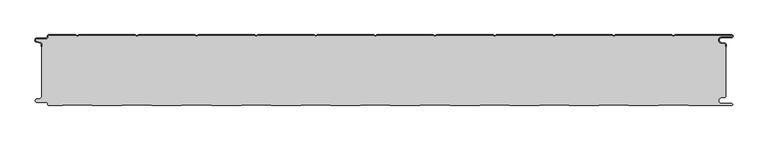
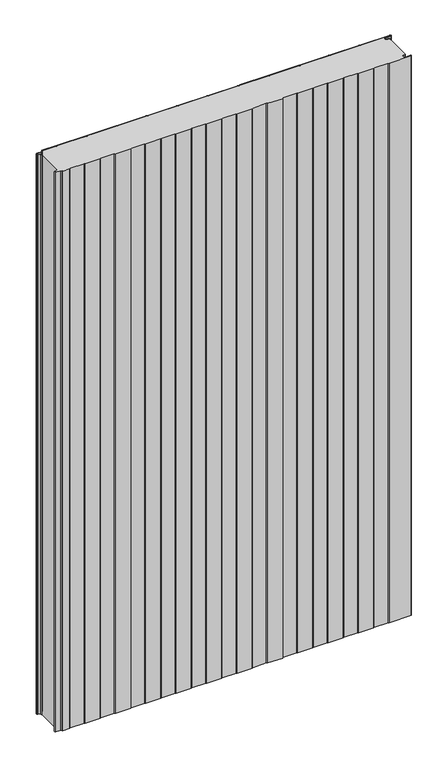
"""IFC4 building model written with IfcOpenShell, lengths in millimetres: plate geometry, PM1_Curtain-Panel_Perfil-Estándar : ACH_PM1_Panel-Acústico-Sectorización_120M."""

from ifc_helpers import new_model, si_unit, point, frame, frame_2d, origin, origin_with_axes, place, context, project, spatial, polyline, circle_curve, trimmed, segment, composite_curve, outline, extrude, source, transform, mapped, element, save
from ifc_brep_helpers import plane_surface, cylinder_surface, revolved_surface, advanced_brep


def plate_6c952c13(model_context):
    return source(origin(), model_context, "Body", "SolidModel", [
        advanced_brep(
        [(-575.0, -15.878557, 1945.7507136), (-575.0, -20.0, 1945.7507136), (-574.2, -20.0, 1945.7507136), (-574.2, -15.878557, 1945.7507136), (-576.370137, -13.1503208, 1945.7507136), (-582.529863, -11.728236, 1945.7507136), (-581.9, -6.2, 1945.7507136), (-566.4, -6.2, 1945.7507136), (-563.6, -3.4, 1945.7507136), (-563.6, -2.0, 1945.7507136), (-562.4, -0.8, 1945.7507136), (-517.3143588, -0.8, 1945.7507136), (-514.4, -2.482606, 1945.7507136), (-511.4856412, -0.8, 1945.7507136), (-417.3143588, -0.8, 1945.7507136), (-414.4, -2.482606, 1945.7507136), (-411.4856412, -0.8, 1945.7507136), (-317.3143588, -0.8, 1945.7507136), (-314.4, -2.482606, 1945.7507136), (-311.4856412, -0.8, 1945.7507136), (-217.3143588, -0.8, 1945.7507136), (-214.4, -2.482606, 1945.7507136), (-211.4856412, -0.8, 1945.7507136), (-117.3143588, -0.8, 1945.7507136), (-114.4, -2.482606, 1945.7507136), (-111.4856412, -0.8, 1945.7507136), (-17.3143588, -0.8, 1945.7507136), (-14.4, -2.482606, 1945.7507136), (-11.4856412, -0.8, 1945.7507136), (82.6856412, -0.8, 1945.7507136), (85.6, -2.482606, 1945.7507136), (88.5143588, -0.8, 1945.7507136), (182.6856412, -0.8, 1945.7507136), (185.6, -2.482606, 1945.7507136), (188.5143588, -0.8, 1945.7507136), (282.6856412, -0.8, 1945.7507136), (285.6, -2.482606, 1945.7507136), (288.5143588, -0.8, 1945.7507136), (382.6856412, -0.8, 1945.7507136), (385.6, -2.482606, 1945.7507136), (388.5143588, -0.8, 1945.7507136), (482.6856412, -0.8, 1945.7507136), (485.6, -2.482606, 1945.7507136), (488.5143588, -0.8, 1945.7507136), (583.1, -0.8, 1945.7507136), (583.1, -4.2, 1945.7507136), (566.1, -4.2, 1945.7507136), (565.2664884, -13.7270771, 1945.7507136), (571.7125669, -14.8636953, 1945.7507136), (573.2, -16.6363492, 1945.7507136), (573.2, -20.0, 1945.7507136), (574.0, -20.0, 1945.7507136), (574.0, -16.6363492, 1945.7507136), (571.8514855, -14.0758491, 1945.7507136), (565.405407, -12.939231, 1945.7507136), (566.1, -5.0, 1945.7507136), (583.1, -5.0, 1945.7507136), (585.6, -2.5, 1945.7507136), (583.1, 0.0, 1945.7507136), (488.2999995, 0.0, 1945.7507136), (485.6, -1.5588455, 1945.7507136), (482.9000005, 0.0, 1945.7507136), (388.2999995, 0.0, 1945.7507136), (385.6, -1.5588455, 1945.7507136), (382.9000005, 0.0, 1945.7507136), (288.2999995, 0.0, 1945.7507136), (285.6, -1.5588455, 1945.7507136), (282.9000005, 0.0, 1945.7507136), (188.2999995, 0.0, 1945.7507136), (185.6, -1.5588455, 1945.7507136), (182.9000005, 0.0, 1945.7507136), (88.2999995, 0.0, 1945.7507136), (85.6, -1.5588455, 1945.7507136), (82.9000005, 0.0, 1945.7507136), (-11.7000005, 0.0, 1945.7507136), (-14.4, -1.5588455, 1945.7507136), (-17.0999995, 0.0, 1945.7507136), (-111.7000005, 0.0, 1945.7507136), (-114.4, -1.5588455, 1945.7507136), (-117.0999995, 0.0, 1945.7507136), (-211.7000005, 0.0, 1945.7507136), (-214.4, -1.5588455, 1945.7507136), (-217.0999995, 0.0, 1945.7507136), (-311.7000005, 0.0, 1945.7507136), (-314.4, -1.5588455, 1945.7507136), (-317.0999995, 0.0, 1945.7507136), (-411.7000005, 0.0, 1945.7507136), (-414.4, -1.5588455, 1945.7507136), (-417.0999995, 0.0, 1945.7507136), (-511.7000005, 0.0, 1945.7507136), (-514.4, -1.5588455, 1945.7507136), (-517.0999995, 0.0, 1945.7507136), (-562.4, 0.0, 1945.7507136), (-564.4, -2.0, 1945.7507136), (-564.4, -3.4, 1945.7507136), (-566.4, -5.4, 1945.7507136), (-581.9, -5.4, 1945.7507136), (-582.7098239, -12.5077322, 1945.7507136), (-576.5500979, -13.929817, 1945.7507136), (-575.0, -15.878557, 0.0), (-576.5500978, -13.9298169, 0.0), (-582.7098239, -12.507732, 0.0), (-581.9, -5.4, 0.0), (-566.4, -5.4, 0.0), (-564.4, -3.4, 0.0), (-564.4, -2.0, 0.0), (-562.4, 0.0, 0.0), (-517.0999995, 0.0, 0.0), (-514.4, -1.5588455, 0.0), (-511.7000005, 0.0, 0.0), (-417.0999995, 0.0, 0.0), (-414.4, -1.5588455, 0.0), (-411.7000005, 0.0, 0.0), (-317.0999995, 0.0, 0.0), (-314.4, -1.5588455, 0.0), (-311.7000005, 0.0, 0.0), (-217.0999995, 0.0, 0.0), (-214.4, -1.5588455, 0.0), (-211.7000005, 0.0, 0.0), (-117.0999995, 0.0, 0.0), (-114.4, -1.5588455, 0.0), (-111.7000005, 0.0, 0.0), (-17.0999995, 0.0, 0.0), (-14.4, -1.5588455, 0.0), (-11.7000005, 0.0, 0.0), (82.9000005, 0.0, 0.0), (85.6, -1.5588455, 0.0), (88.2999995, 0.0, 0.0), (182.9000005, 0.0, 0.0), (185.6, -1.5588455, 0.0), (188.2999995, 0.0, 0.0), (282.9000005, 0.0, 0.0), (285.6, -1.5588455, 0.0), (288.2999995, 0.0, 0.0), (382.9000005, 0.0, 0.0), (385.6, -1.5588455, 0.0), (388.2999995, 0.0, 0.0), (482.9000005, 0.0, 0.0), (485.6, -1.5588455, 0.0), (488.2999995, 0.0, 0.0), (583.1, 0.0, 0.0), (585.6, -2.5, 0.0), (583.1, -5.0, 0.0), (566.1, -5.0, 0.0), (565.405407, -12.939231, 0.0), (571.8514855, -14.0758491, 0.0), (574.0, -16.6363492, 0.0), (574.0, -20.0, 0.0), (573.2, -20.0, 0.0), (573.2, -16.6363492, 0.0), (571.7125669, -14.8636953, 0.0), (565.2664884, -13.7270772, 0.0), (566.1, -4.2, 0.0), (583.1, -4.2, 0.0), (583.1, -0.8, 0.0), (488.5143588, -0.8, 0.0), (485.6, -2.482606, 0.0), (482.6856412, -0.8, 0.0), (388.5143588, -0.8, 0.0), (385.6, -2.482606, 0.0), (382.6856412, -0.8, 0.0), (288.5143588, -0.8, 0.0), (285.6, -2.482606, 0.0), (282.6856412, -0.8, 0.0), (188.5143588, -0.8, 0.0), (185.6, -2.482606, 0.0), (182.6856412, -0.8, 0.0), (88.5143588, -0.8, 0.0), (85.6, -2.482606, 0.0), (82.6856412, -0.8, 0.0), (-11.4856412, -0.8, 0.0), (-14.4, -2.482606, 0.0), (-17.3143588, -0.8, 0.0), (-111.4856412, -0.8, 0.0), (-114.4, -2.482606, 0.0), (-117.3143588, -0.8, 0.0), (-211.4856412, -0.8, 0.0), (-214.4, -2.482606, 0.0), (-217.3143588, -0.8, 0.0), (-311.4856412, -0.8, 0.0), (-314.4, -2.482606, 0.0), (-317.3143588, -0.8, 0.0), (-411.4856412, -0.8, 0.0), (-414.4, -2.482606, 0.0), (-417.3143588, -0.8, 0.0), (-511.4856412, -0.8, 0.0), (-514.4, -2.482606, 0.0), (-517.3143588, -0.8, 0.0), (-562.4, -0.8, 0.0), (-563.6, -2.0, 0.0), (-563.6, -3.4, 0.0), (-566.4, -6.2, 0.0), (-581.9, -6.2, 0.0), (-582.529863, -11.7282362, 0.0), (-576.370137, -13.150321, 0.0), (-574.2, -15.878557, 0.0), (-574.2, -20.0, 0.0), (-575.0, -20.0, 0.0)],
        [
            (0, 1),
            (1, 2),
            (2, 3),
            (3, 4, circle_curve(frame((-577.0, -15.878557, 1945.7507136), z_axis=(0.0, 0.0, 1.0), x_axis=(1.0, 0.0, 0.0)), 2.8)),
            (4, 5),
            (5, 6, circle_curve(frame((-581.9, -9.0, 1945.7507136), z_axis=(0.0, 0.0, -1.0), x_axis=(1.0, 0.0, 0.0)), 2.8)),
            (6, 7),
            (7, 8, circle_curve(frame((-566.4, -3.4, 1945.7507136), z_axis=(0.0, 0.0, 1.0), x_axis=(1.0, 0.0, 0.0)), 2.8)),
            (8, 9),
            (9, 10, circle_curve(frame((-562.4, -2.0, 1945.7507136), z_axis=(0.0, 0.0, -1.0), x_axis=(1.0, 0.0, 0.0)), 1.2)),
            (10, 11),
            (11, 12),
            (12, 13),
            (13, 14),
            (14, 15),
            (15, 16),
            (16, 17),
            (17, 18),
            (18, 19),
            (19, 20),
            (20, 21),
            (21, 22),
            (22, 23),
            (23, 24),
            (24, 25),
            (25, 26),
            (26, 27),
            (27, 28),
            (28, 29),
            (29, 30),
            (30, 31),
            (31, 32),
            (32, 33),
            (33, 34),
            (34, 35),
            (35, 36),
            (36, 37),
            (37, 38),
            (38, 39),
            (39, 40),
            (40, 41),
            (41, 42),
            (42, 43),
            (43, 44),
            (44, 45, circle_curve(frame((583.1, -2.5, 1945.7507136), z_axis=(0.0, 0.0, -1.0), x_axis=(1.0, 0.0, 0.0)), 1.7)),
            (45, 46),
            (46, 47, circle_curve(frame((566.1, -9.0, 1945.7507136), z_axis=(0.0, 0.0, 1.0), x_axis=(1.0, 0.0, 0.0)), 4.8)),
            (47, 48),
            (48, 49, circle_curve(frame((571.4, -16.6363492, 1945.7507136), z_axis=(0.0, 0.0, -1.0), x_axis=(1.0, 0.0, 0.0)), 1.8)),
            (49, 50),
            (50, 51),
            (51, 52),
            (52, 53, circle_curve(frame((571.4, -16.6363492, 1945.7507136), z_axis=(0.0, 0.0, 1.0), x_axis=(1.0, 0.0, 0.0)), 2.6)),
            (53, 54),
            (54, 55, circle_curve(frame((566.1, -9.0, 1945.7507136), z_axis=(0.0, 0.0, -1.0), x_axis=(1.0, 0.0, 0.0)), 4.0)),
            (55, 56),
            (56, 57, circle_curve(frame((583.1, -2.5, 1945.7507136), z_axis=(0.0, 0.0, 1.0), x_axis=(1.0, 0.0, 0.0)), 2.5)),
            (57, 58, circle_curve(frame((583.1, -2.5, 1945.7507136), z_axis=(0.0, 0.0, 1.0), x_axis=(1.0, 0.0, 0.0)), 2.5)),
            (58, 59),
            (59, 60),
            (60, 61),
            (61, 62),
            (62, 63),
            (63, 64),
            (64, 65),
            (65, 66),
            (66, 67),
            (67, 68),
            (68, 69),
            (69, 70),
            (70, 71),
            (71, 72),
            (72, 73),
            (73, 74),
            (74, 75),
            (75, 76),
            (76, 77),
            (77, 78),
            (78, 79),
            (79, 80),
            (80, 81),
            (81, 82),
            (82, 83),
            (83, 84),
            (84, 85),
            (85, 86),
            (86, 87),
            (87, 88),
            (88, 89),
            (89, 90),
            (90, 91),
            (91, 92),
            (92, 93, circle_curve(frame((-562.4, -2.0, 1945.7507136), z_axis=(0.0, 0.0, 1.0), x_axis=(1.0, 0.0, 0.0)), 2.0)),
            (93, 94),
            (94, 95, circle_curve(frame((-566.4, -3.4, 1945.7507136), z_axis=(0.0, 0.0, -1.0), x_axis=(1.0, 0.0, 0.0)), 2.0)),
            (95, 96),
            (96, 97, circle_curve(frame((-581.9, -9.0, 1945.7507136), z_axis=(0.0, 0.0, 1.0), x_axis=(1.0, 0.0, 0.0)), 3.6)),
            (97, 98),
            (98, 0, circle_curve(frame((-577.0, -15.878557, 1945.7507136), z_axis=(0.0, 0.0, -1.0), x_axis=(1.0, 0.0, 0.0)), 2.0)),
            (99, 100, circle_curve(frame((-577.0, -15.878557, 0.0), z_axis=(0.0, 0.0, 1.0), x_axis=(1.0, 0.0, 0.0)), 2.0)),
            (100, 101),
            (101, 102, circle_curve(frame((-581.9, -9.0, 0.0), z_axis=(0.0, 0.0, -1.0), x_axis=(1.0, 0.0, 0.0)), 3.6)),
            (102, 103),
            (103, 104, circle_curve(frame((-566.4, -3.4, 0.0), z_axis=(0.0, 0.0, 1.0), x_axis=(1.0, 0.0, 0.0)), 2.0)),
            (104, 105),
            (105, 106, circle_curve(frame((-562.4, -2.0, 0.0), z_axis=(0.0, 0.0, -1.0), x_axis=(1.0, 0.0, 0.0)), 2.0)),
            (106, 107),
            (107, 108),
            (108, 109),
            (109, 110),
            (110, 111),
            (111, 112),
            (112, 113),
            (113, 114),
            (114, 115),
            (115, 116),
            (116, 117),
            (117, 118),
            (118, 119),
            (119, 120),
            (120, 121),
            (121, 122),
            (122, 123),
            (123, 124),
            (124, 125),
            (125, 126),
            (126, 127),
            (127, 128),
            (128, 129),
            (129, 130),
            (130, 131),
            (131, 132),
            (132, 133),
            (133, 134),
            (134, 135),
            (135, 136),
            (136, 137),
            (137, 138),
            (138, 139),
            (139, 140),
            (140, 141, circle_curve(frame((583.1, -2.5, 0.0), z_axis=(0.0, 0.0, -1.0), x_axis=(1.0, 0.0, 0.0)), 2.5)),
            (141, 142, circle_curve(frame((583.1, -2.5, 0.0), z_axis=(0.0, 0.0, -1.0), x_axis=(1.0, 0.0, 0.0)), 2.5)),
            (142, 143),
            (143, 144, circle_curve(frame((566.1, -9.0, 0.0), z_axis=(0.0, 0.0, 1.0), x_axis=(1.0, 0.0, 0.0)), 4.0)),
            (144, 145),
            (145, 146, circle_curve(frame((571.4, -16.6363492, 0.0), z_axis=(0.0, 0.0, -1.0), x_axis=(1.0, 0.0, 0.0)), 2.6)),
            (146, 147),
            (147, 148),
            (148, 149),
            (149, 150, circle_curve(frame((571.4, -16.6363492, 0.0), z_axis=(0.0, 0.0, 1.0), x_axis=(1.0, 0.0, 0.0)), 1.8)),
            (150, 151),
            (151, 152, circle_curve(frame((566.1, -9.0, 0.0), z_axis=(0.0, 0.0, -1.0), x_axis=(1.0, 0.0, 0.0)), 4.8)),
            (152, 153),
            (153, 154, circle_curve(frame((583.1, -2.5, 0.0), z_axis=(0.0, 0.0, 1.0), x_axis=(1.0, 0.0, 0.0)), 1.7)),
            (154, 155),
            (155, 156),
            (156, 157),
            (157, 158),
            (158, 159),
            (159, 160),
            (160, 161),
            (161, 162),
            (162, 163),
            (163, 164),
            (164, 165),
            (165, 166),
            (166, 167),
            (167, 168),
            (168, 169),
            (169, 170),
            (170, 171),
            (171, 172),
            (172, 173),
            (173, 174),
            (174, 175),
            (175, 176),
            (176, 177),
            (177, 178),
            (178, 179),
            (179, 180),
            (180, 181),
            (181, 182),
            (182, 183),
            (183, 184),
            (184, 185),
            (185, 186),
            (186, 187),
            (187, 188),
            (188, 189, circle_curve(frame((-562.4, -2.0, 0.0), z_axis=(0.0, 0.0, 1.0), x_axis=(1.0, 0.0, 0.0)), 1.2)),
            (189, 190),
            (190, 191, circle_curve(frame((-566.4, -3.4, 0.0), z_axis=(0.0, 0.0, -1.0), x_axis=(1.0, 0.0, 0.0)), 2.8)),
            (191, 192),
            (192, 193, circle_curve(frame((-581.9, -9.0, 0.0), z_axis=(0.0, 0.0, 1.0), x_axis=(1.0, 0.0, 0.0)), 2.8)),
            (193, 194),
            (194, 195, circle_curve(frame((-577.0, -15.878557, 0.0), z_axis=(0.0, 0.0, -1.0), x_axis=(1.0, 0.0, 0.0)), 2.8)),
            (195, 196),
            (196, 197),
            (197, 99),
            (0, 99),
            (197, 1),
            (196, 2),
            (195, 3),
            (194, 4),
            (193, 5),
            (192, 6),
            (191, 7),
            (190, 8),
            (189, 9),
            (188, 10),
            (187, 11),
            (186, 12),
            (185, 13),
            (184, 14),
            (183, 15),
            (182, 16),
            (181, 17),
            (180, 18),
            (179, 19),
            (178, 20),
            (177, 21),
            (176, 22),
            (175, 23),
            (174, 24),
            (173, 25),
            (172, 26),
            (171, 27),
            (170, 28),
            (169, 29),
            (168, 30),
            (167, 31),
            (166, 32),
            (165, 33),
            (164, 34),
            (163, 35),
            (162, 36),
            (161, 37),
            (160, 38),
            (159, 39),
            (158, 40),
            (157, 41),
            (156, 42),
            (155, 43),
            (154, 44),
            (153, 45),
            (152, 46),
            (151, 47),
            (150, 48),
            (149, 49),
            (148, 50),
            (147, 51),
            (146, 52),
            (145, 53),
            (144, 54),
            (143, 55),
            (142, 56),
            (140, 58),
            (139, 59),
            (138, 60),
            (137, 61),
            (136, 62),
            (135, 63),
            (134, 64),
            (133, 65),
            (132, 66),
            (131, 67),
            (130, 68),
            (129, 69),
            (128, 70),
            (127, 71),
            (126, 72),
            (125, 73),
            (124, 74),
            (123, 75),
            (122, 76),
            (121, 77),
            (120, 78),
            (119, 79),
            (118, 80),
            (117, 81),
            (116, 82),
            (115, 83),
            (114, 84),
            (113, 85),
            (112, 86),
            (111, 87),
            (110, 88),
            (109, 89),
            (108, 90),
            (107, 91),
            (106, 92),
            (105, 93),
            (104, 94),
            (103, 95),
            (102, 96),
            (101, 97),
            (100, 98),
        ],
        [
            plane_surface(frame((-575.0, 0.0, 1945.7507136), z_axis=(0.0, 0.0, 1.0), x_axis=(0.0, 1.0, 0.0))),
            plane_surface(frame((-575.0, 0.0, 0.0), z_axis=(0.0, 0.0, -1.0), x_axis=(0.0, 1.0, 0.0))),
            plane_surface(frame((-575.0, -15.878557, 1945.7507136), z_axis=(-1.0, 0.0, 0.0), x_axis=(0.0, 0.0, -1.0))),
            plane_surface(frame((-575.0, -20.0, 1945.7507136), z_axis=(0.0, -1.0, 0.0), x_axis=(0.0, 0.0, -1.0))),
            plane_surface(frame((-574.2, -20.0, 1945.7507136), z_axis=(1.0, 0.0, 0.0), x_axis=(0.0, 0.0, -1.0))),
            cylinder_surface(frame((-577.0, -15.878557, 1945.7507136), z_axis=(0.0, 0.0, 1.0), x_axis=(1.0, 0.0, 0.0)), 2.8),
            plane_surface(frame((-576.370137, -13.150321, 1945.7507136), z_axis=(0.22495108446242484, 0.9743700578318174, 0.0), x_axis=(0.0, 0.0, -1.0))),
            revolved_surface(polyline([(-579.1, -9.0, 0.0), (-579.1, -9.0, 1945.7507136)]), (-581.9, -9.0, 1945.7507136), (0.0, 0.0, -1.0)),
            plane_surface(frame((-581.9, -6.2, 1945.7507136), z_axis=(0.0, -1.0, 0.0), x_axis=(0.0, 0.0, -1.0))),
            cylinder_surface(frame((-566.4, -3.4, 1945.7507136), z_axis=(0.0, 0.0, 1.0), x_axis=(1.0, 0.0, 0.0)), 2.8),
            plane_surface(frame((-563.6, -3.4, 1945.7507136), z_axis=(1.0, 0.0, 0.0), x_axis=(0.0, 0.0, -1.0))),
            revolved_surface(polyline([(-561.1999999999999, -2.0, 0.0), (-561.1999999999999, -2.0, 1945.7507136)]), (-562.4, -2.0, 1945.7507136), (0.0, 0.0, -1.0)),
            plane_surface(frame((-562.4, -0.8, 1945.7507136), z_axis=(0.0, -1.0, 0.0), x_axis=(0.0, 0.0, -1.0))),
            plane_surface(frame((-517.3143588, -0.8, 1945.7507136), z_axis=(-0.5000000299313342, -0.8660253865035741, 0.0), x_axis=(0.0, 0.0, -1.0))),
            plane_surface(frame((-514.4, -2.482606, 1945.7507136), z_axis=(0.5000000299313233, -0.8660253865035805, 0.0), x_axis=(0.0, 0.0, -1.0))),
            plane_surface(frame((-511.4856412, -0.8, 1945.7507136), z_axis=(0.0, -1.0, 0.0), x_axis=(0.0, 0.0, -1.0))),
            plane_surface(frame((-417.3143588, -0.8, 1945.7507136), z_axis=(-0.5000000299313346, -0.8660253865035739, 0.0), x_axis=(0.0, 0.0, -1.0))),
            plane_surface(frame((-414.4, -2.482606, 1945.7507136), z_axis=(0.5000000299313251, -0.8660253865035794, 0.0), x_axis=(0.0, 0.0, -1.0))),
            plane_surface(frame((-411.4856412, -0.8, 1945.7507136), z_axis=(0.0, -1.0, 0.0), x_axis=(0.0, 0.0, -1.0))),
            plane_surface(frame((-317.3143588, -0.8, 1945.7507136), z_axis=(-0.5000000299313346, -0.866025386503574, 0.0), x_axis=(0.0, 0.0, -1.0))),
            plane_surface(frame((-314.4, -2.482606, 1945.7507136), z_axis=(0.5000000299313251, -0.8660253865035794, 0.0), x_axis=(0.0, 0.0, -1.0))),
            plane_surface(frame((-311.4856412, -0.8, 1945.7507136), z_axis=(0.0, -1.0, 0.0), x_axis=(0.0, 0.0, -1.0))),
            plane_surface(frame((-217.3143588, -0.8, 1945.7507136), z_axis=(-0.5000000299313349, -0.8660253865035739, 0.0), x_axis=(0.0, 0.0, -1.0))),
            plane_surface(frame((-214.4, -2.482606, 1945.7507136), z_axis=(0.5000000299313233, -0.8660253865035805, 0.0), x_axis=(0.0, 0.0, -1.0))),
            plane_surface(frame((-211.4856412, -0.8, 1945.7507136), z_axis=(0.0, -1.0, 0.0), x_axis=(0.0, 0.0, -1.0))),
            plane_surface(frame((-117.3143588, -0.8, 1945.7507136), z_axis=(-0.5000000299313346, -0.866025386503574, 0.0), x_axis=(0.0, 0.0, -1.0))),
            plane_surface(frame((-114.4, -2.482606, 1945.7507136), z_axis=(0.5000000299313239, -0.8660253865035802, 0.0), x_axis=(0.0, 0.0, -1.0))),
            plane_surface(frame((-111.4856412, -0.8, 1945.7507136), z_axis=(0.0, -1.0, 0.0), x_axis=(0.0, 0.0, -1.0))),
            plane_surface(frame((-17.3143588, -0.8, 1945.7507136), z_axis=(-0.5000000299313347, -0.8660253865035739, 0.0), x_axis=(0.0, 0.0, -1.0))),
            plane_surface(frame((-14.4, -2.482606, 1945.7507136), z_axis=(0.5000000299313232, -0.8660253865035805, 0.0), x_axis=(0.0, 0.0, -1.0))),
            plane_surface(frame((-11.4856412, -0.8, 1945.7507136), z_axis=(0.0, -1.0, 0.0), x_axis=(0.0, 0.0, -1.0))),
            plane_surface(frame((82.6856412, -0.8, 1945.7507136), z_axis=(-0.5000000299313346, -0.866025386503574, 0.0), x_axis=(0.0, 0.0, -1.0))),
            plane_surface(frame((85.6, -2.482606, 1945.7507136), z_axis=(0.5000000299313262, -0.8660253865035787, 0.0), x_axis=(0.0, 0.0, -1.0))),
            plane_surface(frame((88.5143588, -0.8, 1945.7507136), z_axis=(0.0, -1.0, 0.0), x_axis=(0.0, 0.0, -1.0))),
            plane_surface(frame((182.6856412, -0.8, 1945.7507136), z_axis=(-0.5000000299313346, -0.8660253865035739, 0.0), x_axis=(0.0, 0.0, -1.0))),
            plane_surface(frame((185.6, -2.482606, 1945.7507136), z_axis=(0.5000000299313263, -0.8660253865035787, 0.0), x_axis=(0.0, 0.0, -1.0))),
            plane_surface(frame((188.5143588, -0.8, 1945.7507136), z_axis=(0.0, -1.0, 0.0), x_axis=(0.0, 0.0, -1.0))),
            plane_surface(frame((282.6856412, -0.8, 1945.7507136), z_axis=(-0.5000000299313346, -0.8660253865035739, 0.0), x_axis=(0.0, 0.0, -1.0))),
            plane_surface(frame((285.6, -2.482606, 1945.7507136), z_axis=(0.5000000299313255, -0.8660253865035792, 0.0), x_axis=(0.0, 0.0, -1.0))),
            plane_surface(frame((288.5143588, -0.8, 1945.7507136), z_axis=(0.0, -1.0, 0.0), x_axis=(0.0, 0.0, -1.0))),
            plane_surface(frame((382.6856412, -0.8, 1945.7507136), z_axis=(-0.5000000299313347, -0.8660253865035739, 0.0), x_axis=(0.0, 0.0, -1.0))),
            plane_surface(frame((385.6, -2.482606, 1945.7507136), z_axis=(0.5000000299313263, -0.8660253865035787, 0.0), x_axis=(0.0, 0.0, -1.0))),
            plane_surface(frame((388.5143588, -0.8, 1945.7507136), z_axis=(0.0, -1.0, 0.0), x_axis=(0.0, 0.0, -1.0))),
            plane_surface(frame((482.6856412, -0.8, 1945.7507136), z_axis=(-0.5000000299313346, -0.866025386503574, 0.0), x_axis=(0.0, 0.0, -1.0))),
            plane_surface(frame((485.6, -2.482606, 1945.7507136), z_axis=(0.5000000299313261, -0.8660253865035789, 0.0), x_axis=(0.0, 0.0, -1.0))),
            plane_surface(frame((535.6, -0.8, 1945.7507136), z_axis=(0.0, -1.0, 0.0), x_axis=(0.0, 0.0, -1.0))),
            revolved_surface(polyline([(584.8000000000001, -2.5, 0.0), (584.8000000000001, -2.5, 1945.7507136)]), (583.1, -2.5, 1945.7507136), (0.0, 0.0, -1.0)),
            plane_surface(frame((583.1, -4.2, 1945.7507136), z_axis=(0.0, 1.0, 0.0), x_axis=(0.0, 0.0, -1.0))),
            cylinder_surface(frame((566.1, -9.0, 1945.7507136), z_axis=(0.0, 0.0, 1.0), x_axis=(1.0, 0.0, 0.0)), 4.8),
            plane_surface(frame((565.2664884, -13.7270772, 1945.7507136), z_axis=(-0.17364825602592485, -0.9848077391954, 0.0), x_axis=(0.0, 0.0, -1.0))),
            revolved_surface(polyline([(573.1999999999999, -16.6363492, 0.0), (573.1999999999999, -16.6363492, 1945.7507136)]), (571.4, -16.6363492, 1945.7507136), (0.0, 0.0, -1.0)),
            plane_surface(frame((573.2, -16.6363492, 1945.7507136), z_axis=(-1.0, 0.0, 0.0), x_axis=(0.0, 0.0, -1.0))),
            plane_surface(frame((573.2, -20.0, 1945.7507136), z_axis=(0.0, -1.0, 0.0), x_axis=(0.0, 0.0, -1.0))),
            plane_surface(frame((574.0, -20.0, 1945.7507136), z_axis=(1.0, 0.0, 0.0), x_axis=(0.0, 0.0, -1.0))),
            cylinder_surface(frame((571.4, -16.6363492, 1945.7507136), z_axis=(0.0, 0.0, 1.0), x_axis=(1.0, 0.0, 0.0)), 2.6),
            plane_surface(frame((571.8514855, -14.0758491, 1945.7507136), z_axis=(0.1736482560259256, 0.9848077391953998, 0.0), x_axis=(0.0, 0.0, -1.0))),
            revolved_surface(polyline([(570.1, -9.0, 0.0), (570.1, -9.0, 1945.7507136)]), (566.1, -9.0, 1945.7507136), (0.0, 0.0, -1.0)),
            plane_surface(frame((566.1, -5.0, 1945.7507136), z_axis=(0.0, -1.0, 0.0), x_axis=(0.0, 0.0, -1.0))),
            cylinder_surface(frame((583.1, -2.5, 1945.7507136), z_axis=(0.0, 0.0, 1.0), x_axis=(1.0, 0.0, 0.0)), 2.5),
            plane_surface(frame((535.6, 0.0, 1945.7507136), z_axis=(0.0, 1.0, 0.0), x_axis=(0.0, 0.0, -1.0))),
            plane_surface(frame((488.2999995, 0.0, 1945.7507136), z_axis=(-0.5000000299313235, 0.8660253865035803, 0.0), x_axis=(0.0, 0.0, -1.0))),
            plane_surface(frame((485.6, -1.5588455, 1945.7507136), z_axis=(0.5000000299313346, 0.8660253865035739, 0.0), x_axis=(0.0, 0.0, -1.0))),
            plane_surface(frame((482.9000005, 0.0, 1945.7507136), z_axis=(0.0, 1.0, 0.0), x_axis=(0.0, 0.0, -1.0))),
            plane_surface(frame((388.2999995, 0.0, 1945.7507136), z_axis=(-0.5000000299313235, 0.8660253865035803, 0.0), x_axis=(0.0, 0.0, -1.0))),
            plane_surface(frame((385.6, -1.5588455, 1945.7507136), z_axis=(0.5000000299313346, 0.8660253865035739, 0.0), x_axis=(0.0, 0.0, -1.0))),
            plane_surface(frame((382.9000005, 0.0, 1945.7507136), z_axis=(0.0, 1.0, 0.0), x_axis=(0.0, 0.0, -1.0))),
            plane_surface(frame((288.2999995, 0.0, 1945.7507136), z_axis=(-0.5000000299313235, 0.8660253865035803, 0.0), x_axis=(0.0, 0.0, -1.0))),
            plane_surface(frame((285.6, -1.5588455, 1945.7507136), z_axis=(0.5000000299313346, 0.8660253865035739, 0.0), x_axis=(0.0, 0.0, -1.0))),
            plane_surface(frame((282.9000005, 0.0, 1945.7507136), z_axis=(0.0, 1.0, 0.0), x_axis=(0.0, 0.0, -1.0))),
            plane_surface(frame((188.2999995, 0.0, 1945.7507136), z_axis=(-0.5000000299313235, 0.8660253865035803, 0.0), x_axis=(0.0, 0.0, -1.0))),
            plane_surface(frame((185.6, -1.5588455, 1945.7507136), z_axis=(0.5000000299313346, 0.8660253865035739, 0.0), x_axis=(0.0, 0.0, -1.0))),
            plane_surface(frame((182.9000005, 0.0, 1945.7507136), z_axis=(0.0, 1.0, 0.0), x_axis=(0.0, 0.0, -1.0))),
            plane_surface(frame((88.2999995, 0.0, 1945.7507136), z_axis=(-0.5000000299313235, 0.8660253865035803, 0.0), x_axis=(0.0, 0.0, -1.0))),
            plane_surface(frame((85.6, -1.5588455, 1945.7507136), z_axis=(0.5000000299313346, 0.8660253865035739, 0.0), x_axis=(0.0, 0.0, -1.0))),
            plane_surface(frame((82.9000005, 0.0, 1945.7507136), z_axis=(0.0, 1.0, 0.0), x_axis=(0.0, 0.0, -1.0))),
            plane_surface(frame((-11.7000005, 0.0, 1945.7507136), z_axis=(-0.5000000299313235, 0.8660253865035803, 0.0), x_axis=(0.0, 0.0, -1.0))),
            plane_surface(frame((-14.4, -1.5588455, 1945.7507136), z_axis=(0.5000000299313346, 0.8660253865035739, 0.0), x_axis=(0.0, 0.0, -1.0))),
            plane_surface(frame((-17.0999995, 0.0, 1945.7507136), z_axis=(0.0, 1.0, 0.0), x_axis=(0.0, 0.0, -1.0))),
            plane_surface(frame((-111.7000005, 0.0, 1945.7507136), z_axis=(-0.5000000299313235, 0.8660253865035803, 0.0), x_axis=(0.0, 0.0, -1.0))),
            plane_surface(frame((-114.4, -1.5588455, 1945.7507136), z_axis=(0.5000000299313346, 0.8660253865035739, 0.0), x_axis=(0.0, 0.0, -1.0))),
            plane_surface(frame((-117.0999995, 0.0, 1945.7507136), z_axis=(0.0, 1.0, 0.0), x_axis=(0.0, 0.0, -1.0))),
            plane_surface(frame((-211.7000005, 0.0, 1945.7507136), z_axis=(-0.5000000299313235, 0.8660253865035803, 0.0), x_axis=(0.0, 0.0, -1.0))),
            plane_surface(frame((-214.4, -1.5588455, 1945.7507136), z_axis=(0.5000000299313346, 0.8660253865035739, 0.0), x_axis=(0.0, 0.0, -1.0))),
            plane_surface(frame((-217.0999995, 0.0, 1945.7507136), z_axis=(0.0, 1.0, 0.0), x_axis=(0.0, 0.0, -1.0))),
            plane_surface(frame((-311.7000005, 0.0, 1945.7507136), z_axis=(-0.5000000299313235, 0.8660253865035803, 0.0), x_axis=(0.0, 0.0, -1.0))),
            plane_surface(frame((-314.4, -1.5588455, 1945.7507136), z_axis=(0.5000000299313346, 0.8660253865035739, 0.0), x_axis=(0.0, 0.0, -1.0))),
            plane_surface(frame((-317.0999995, 0.0, 1945.7507136), z_axis=(0.0, 1.0, 0.0), x_axis=(0.0, 0.0, -1.0))),
            plane_surface(frame((-411.7000005, 0.0, 1945.7507136), z_axis=(-0.5000000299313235, 0.8660253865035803, 0.0), x_axis=(0.0, 0.0, -1.0))),
            plane_surface(frame((-414.4, -1.5588455, 1945.7507136), z_axis=(0.5000000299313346, 0.8660253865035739, 0.0), x_axis=(0.0, 0.0, -1.0))),
            plane_surface(frame((-417.0999995, 0.0, 1945.7507136), z_axis=(0.0, 1.0, 0.0), x_axis=(0.0, 0.0, -1.0))),
            plane_surface(frame((-511.7000005, 0.0, 1945.7507136), z_axis=(-0.5000000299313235, 0.8660253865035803, 0.0), x_axis=(0.0, 0.0, -1.0))),
            plane_surface(frame((-514.4, -1.5588455, 1945.7507136), z_axis=(0.5000000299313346, 0.8660253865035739, 0.0), x_axis=(0.0, 0.0, -1.0))),
            plane_surface(frame((-517.0999995, 0.0, 1945.7507136), z_axis=(0.0, 1.0, 0.0), x_axis=(0.0, 0.0, -1.0))),
            cylinder_surface(frame((-562.4, -2.0, 1945.7507136), z_axis=(0.0, 0.0, 1.0), x_axis=(1.0, 0.0, 0.0)), 2.0),
            plane_surface(frame((-564.4, -2.0, 1945.7507136), z_axis=(-1.0, 0.0, 0.0), x_axis=(0.0, 0.0, -1.0))),
            revolved_surface(polyline([(-564.4, -3.4, 0.0), (-564.4, -3.4, 1945.7507136)]), (-566.4, -3.4, 1945.7507136), (0.0, 0.0, -1.0)),
            plane_surface(frame((-566.4, -5.4, 1945.7507136), z_axis=(0.0, 1.0, 0.0), x_axis=(0.0, 0.0, -1.0))),
            cylinder_surface(frame((-581.9, -9.0, 1945.7507136), z_axis=(0.0, 0.0, 1.0), x_axis=(1.0, 0.0, 0.0)), 3.6),
            plane_surface(frame((-582.7098239, -12.507732, 1945.7507136), z_axis=(-0.22495108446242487, -0.9743700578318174, 0.0), x_axis=(0.0, 0.0, -1.0))),
            revolved_surface(polyline([(-575.0, -15.878557, 0.0), (-575.0, -15.878557, 1945.7507136)]), (-577.0, -15.878557, 1945.7507136), (0.0, 0.0, -1.0)),
        ],
        [
            (0, [[1, 2, 3, 4, 5, 6, 7, 8, 9, 10, 11, 12, 13, 14, 15, 16, 17, 18, 19, 20, 21, 22, 23, 24, 25, 26, 27, 28, 29, 30, 31, 32, 33, 34, 35, 36, 37, 38, 39, 40, 41, 42, 43, 44, 45, 46, 47, 48, 49, 50, 51, 52, 53, 54, 55, 56, 57, 58, 59, 60, 61, 62, 63, 64, 65, 66, 67, 68, 69, 70, 71, 72, 73, 74, 75, 76, 77, 78, 79, 80, 81, 82, 83, 84, 85, 86, 87, 88, 89, 90, 91, 92, 93, 94, 95, 96, 97, 98, 99]]),
            (1, [[100, 101, 102, 103, 104, 105, 106, 107, 108, 109, 110, 111, 112, 113, 114, 115, 116, 117, 118, 119, 120, 121, 122, 123, 124, 125, 126, 127, 128, 129, 130, 131, 132, 133, 134, 135, 136, 137, 138, 139, 140, 141, 142, 143, 144, 145, 146, 147, 148, 149, 150, 151, 152, 153, 154, 155, 156, 157, 158, 159, 160, 161, 162, 163, 164, 165, 166, 167, 168, 169, 170, 171, 172, 173, 174, 175, 176, 177, 178, 179, 180, 181, 182, 183, 184, 185, 186, 187, 188, 189, 190, 191, 192, 193, 194, 195, 196, 197, 198]]),
            (2, [[-1, 199, -198, 200]]),
            (3, [[-2, -200, -197, 201]]),
            (4, [[-3, -201, -196, 202]]),
            (5, [[-4, -202, -195, 203]]),
            (6, [[-5, -203, -194, 204]]),
            (7, [[-6, -204, -193, 205]]),
            (8, [[-7, -205, -192, 206]]),
            (9, [[-8, -206, -191, 207]]),
            (10, [[-9, -207, -190, 208]]),
            (11, [[-10, -208, -189, 209]]),
            (12, [[-11, -209, -188, 210]]),
            (13, [[-12, -210, -187, 211]]),
            (14, [[-13, -211, -186, 212]]),
            (15, [[-14, -212, -185, 213]]),
            (16, [[-15, -213, -184, 214]]),
            (17, [[-16, -214, -183, 215]]),
            (18, [[-17, -215, -182, 216]]),
            (19, [[-18, -216, -181, 217]]),
            (20, [[-19, -217, -180, 218]]),
            (21, [[-20, -218, -179, 219]]),
            (22, [[-21, -219, -178, 220]]),
            (23, [[-22, -220, -177, 221]]),
            (24, [[-23, -221, -176, 222]]),
            (25, [[-24, -222, -175, 223]]),
            (26, [[-25, -223, -174, 224]]),
            (27, [[-26, -224, -173, 225]]),
            (28, [[-27, -225, -172, 226]]),
            (29, [[-28, -226, -171, 227]]),
            (30, [[-29, -227, -170, 228]]),
            (31, [[-30, -228, -169, 229]]),
            (32, [[-31, -229, -168, 230]]),
            (33, [[-32, -230, -167, 231]]),
            (34, [[-33, -231, -166, 232]]),
            (35, [[-34, -232, -165, 233]]),
            (36, [[-35, -233, -164, 234]]),
            (37, [[-36, -234, -163, 235]]),
            (38, [[-37, -235, -162, 236]]),
            (39, [[-38, -236, -161, 237]]),
            (40, [[-39, -237, -160, 238]]),
            (41, [[-40, -238, -159, 239]]),
            (42, [[-41, -239, -158, 240]]),
            (43, [[-42, -240, -157, 241]]),
            (44, [[-43, -241, -156, 242]]),
            (45, [[-44, -242, -155, 243]]),
            (46, [[-45, -243, -154, 244]]),
            (47, [[-46, -244, -153, 245]]),
            (48, [[-47, -245, -152, 246]]),
            (49, [[-48, -246, -151, 247]]),
            (50, [[-49, -247, -150, 248]]),
            (51, [[-50, -248, -149, 249]]),
            (52, [[-51, -249, -148, 250]]),
            (53, [[-52, -250, -147, 251]]),
            (54, [[-53, -251, -146, 252]]),
            (55, [[-54, -252, -145, 253]]),
            (56, [[-55, -253, -144, 254]]),
            (57, [[-56, -254, -143, 255]]),
            (58, [[-255, -142, -141, 256, -58, -57]]),
            (59, [[-59, -256, -140, 257]]),
            (60, [[-60, -257, -139, 258]]),
            (61, [[-61, -258, -138, 259]]),
            (62, [[-62, -259, -137, 260]]),
            (63, [[-63, -260, -136, 261]]),
            (64, [[-64, -261, -135, 262]]),
            (65, [[-65, -262, -134, 263]]),
            (66, [[-66, -263, -133, 264]]),
            (67, [[-67, -264, -132, 265]]),
            (68, [[-68, -265, -131, 266]]),
            (69, [[-69, -266, -130, 267]]),
            (70, [[-70, -267, -129, 268]]),
            (71, [[-71, -268, -128, 269]]),
            (72, [[-72, -269, -127, 270]]),
            (73, [[-73, -270, -126, 271]]),
            (74, [[-74, -271, -125, 272]]),
            (75, [[-75, -272, -124, 273]]),
            (76, [[-76, -273, -123, 274]]),
            (77, [[-77, -274, -122, 275]]),
            (78, [[-78, -275, -121, 276]]),
            (79, [[-79, -276, -120, 277]]),
            (80, [[-80, -277, -119, 278]]),
            (81, [[-81, -278, -118, 279]]),
            (82, [[-82, -279, -117, 280]]),
            (83, [[-83, -280, -116, 281]]),
            (84, [[-84, -281, -115, 282]]),
            (85, [[-85, -282, -114, 283]]),
            (86, [[-86, -283, -113, 284]]),
            (87, [[-87, -284, -112, 285]]),
            (88, [[-88, -285, -111, 286]]),
            (89, [[-89, -286, -110, 287]]),
            (90, [[-90, -287, -109, 288]]),
            (91, [[-91, -288, -108, 289]]),
            (92, [[-92, -289, -107, 290]]),
            (93, [[-93, -290, -106, 291]]),
            (94, [[-94, -291, -105, 292]]),
            (95, [[-95, -292, -104, 293]]),
            (96, [[-96, -293, -103, 294]]),
            (97, [[-97, -294, -102, 295]]),
            (98, [[-98, -295, -101, 296]]),
            (99, [[-99, -296, -100, -199]]),
        ],
    ),
        extrude(outline(composite_curve([segment(polyline([(-574.2, -104.121443), (-574.2, -15.8785573)]), True, "CONTINUOUS"), segment(trimmed(circle_curve(frame_2d((-577.0, -15.8785573)), 2.8), [point((-574.2, -15.8785573))], [point((-576.370137, -13.1503212))], True, "CARTESIAN"), True, "CONTINUOUS"), segment(polyline([(-576.370137, -13.1503212), (-582.5298631, -11.7282362)]), True, "CONTINUOUS"), segment(trimmed(circle_curve(frame_2d((-581.9, -9.0)), 2.8), [point((-582.5298631, -11.7282362))], [point((-581.9, -6.2))], False, "CARTESIAN"), True, "CONTINUOUS"), segment(polyline([(-581.9, -6.2), (-566.4000001, -6.2)]), True, "CONTINUOUS"), segment(trimmed(circle_curve(frame_2d((-566.4000001, -3.4)), 2.8), [point((-566.4000001, -6.2))], [point((-563.6000001, -3.4))], True, "CARTESIAN"), True, "CONTINUOUS"), segment(polyline([(-563.6000001, -3.4), (-563.6000001, -2.0)]), True, "CONTINUOUS"), segment(trimmed(circle_curve(frame_2d((-562.4000001, -2.0)), 1.2), [point((-563.6000001, -2.0))], [point((-562.4000001, -0.8))], False, "CARTESIAN"), True, "CONTINUOUS"), segment(polyline([(-562.4000001, -0.8), (-517.3143589, -0.8), (-514.4000001, -2.482606), (-511.4856412, -0.8), (-417.3143589, -0.8), (-414.4000001, -2.482606), (-411.4856412, -0.8), (-317.3143589, -0.8), (-314.4000001, -2.482606), (-311.4856412, -0.8), (-217.3143589, -0.8), (-214.4000001, -2.482606), (-211.4856412, -0.8), (-117.3143589, -0.8), (-114.4000001, -2.482606), (-111.4856412, -0.8), (-17.3143589, -0.8), (-14.4000001, -2.482606), (-11.4856412, -0.8), (82.6856411, -0.8), (85.5999999, -2.482606), (88.5143588, -0.8), (182.6856411, -0.8), (185.5999999, -2.482606), (188.5143588, -0.8), (282.6856411, -0.8), (285.5999999, -2.482606), (288.5143588, -0.8), (382.6856411, -0.8), (385.5999999, -2.482606), (388.5143588, -0.8), (482.6856411, -0.8), (485.6, -2.482606), (488.5143588, -0.8), (583.1, -0.8)]), True, "CONTINUOUS"), segment(trimmed(circle_curve(frame_2d((583.1, -2.5)), 1.7), [point((583.1, -0.8))], [point((583.1, -4.2))], False, "CARTESIAN"), True, "CONTINUOUS"), segment(polyline([(583.1, -4.2), (566.1, -4.2)]), True, "CONTINUOUS"), segment(trimmed(circle_curve(frame_2d((566.1, -9.0)), 4.8), [point((566.1, -4.2))], [point((565.2664883, -13.7270771))], True, "CARTESIAN"), True, "CONTINUOUS"), segment(polyline([(565.2664883, -13.7270771), (571.7125668, -14.8636953)]), True, "CONTINUOUS"), segment(trimmed(circle_curve(frame_2d((571.4, -16.6363492)), 1.8), [point((571.7125668, -14.8636953))], [point((573.2, -16.6363492))], False, "CARTESIAN"), True, "CONTINUOUS"), segment(polyline([(573.2, -16.6363492), (573.2, -103.363652)]), True, "CONTINUOUS"), segment(trimmed(circle_curve(frame_2d((571.4, -103.363652)), 1.8), [point((573.2, -103.363652))], [point((571.7125666, -105.1363059))], False, "CARTESIAN"), True, "CONTINUOUS"), segment(polyline([(571.7125666, -105.1363059), (565.266489, -106.272923)]), True, "CONTINUOUS"), segment(trimmed(circle_curve(frame_2d((566.1, -111.0000002)), 4.7999999), [point((565.266489, -106.272923))], [point((566.1, -115.8000001))], True, "CARTESIAN"), True, "CONTINUOUS"), segment(polyline([(566.1, -115.8000001), (583.1, -115.8000001)]), True, "CONTINUOUS"), segment(trimmed(circle_curve(frame_2d((583.1, -117.5)), 1.7), [point((583.1, -115.8000001))], [point((583.1, -119.2))], False, "CARTESIAN"), True, "CONTINUOUS"), segment(polyline([(583.1, -119.2), (510.8105122, -119.2), (508.2124346, -117.7), (462.9837184, -117.7), (460.3856408, -119.2), (410.8105122, -119.2), (408.2124346, -117.7), (362.9837184, -117.7), (360.3856408, -119.2), (310.8105122, -119.2), (308.2124346, -117.7), (262.9837184, -117.7), (260.3856408, -119.2), (210.8105122, -119.2), (208.2124346, -117.7), (162.9837184, -117.7), (160.3856408, -119.2), (110.8105122, -119.2), (108.2124346, -117.7), (62.9837184, -117.7), (60.3856408, -119.2), (10.8105122, -119.2), (8.2124346, -117.7), (-37.0162816, -117.7), (-39.6143592, -119.2), (-89.1894878, -119.2), (-91.7875654, -117.7), (-137.0162816, -117.7), (-139.6143592, -119.2), (-189.1894878, -119.2), (-191.7875654, -117.7), (-237.0162816, -117.7), (-239.6143592, -119.2), (-289.1894878, -119.2), (-291.7875654, -117.7), (-337.0162816, -117.7), (-339.6143592, -119.2), (-389.1894878, -119.2), (-391.7875654, -117.7), (-437.0162816, -117.7), (-439.6143592, -119.2), (-489.1894878, -119.2), (-491.7875654, -117.7), (-537.0162816, -117.7), (-539.6143592, -119.2), (-562.4, -119.2)]), True, "CONTINUOUS"), segment(trimmed(circle_curve(frame_2d((-562.4, -118.0)), 1.2), [point((-562.4, -119.2))], [point((-563.6, -118.0))], False, "CARTESIAN"), True, "CONTINUOUS"), segment(polyline([(-563.6, -118.0), (-563.6, -116.5999998)]), True, "CONTINUOUS"), segment(trimmed(circle_curve(frame_2d((-566.4, -116.5999998)), 2.8), [point((-563.6, -116.5999998))], [point((-566.4, -113.7999998))], True, "CARTESIAN"), True, "CONTINUOUS"), segment(polyline([(-566.4, -113.7999998), (-581.9, -113.7999998)]), True, "CONTINUOUS"), segment(trimmed(circle_curve(frame_2d((-581.9, -111.0)), 2.7999998), [point((-581.9, -113.7999998))], [point((-582.529863, -108.271764))], False, "CARTESIAN"), True, "CONTINUOUS"), segment(polyline([(-582.529863, -108.271764), (-576.370137, -106.8496792)]), True, "CONTINUOUS"), segment(trimmed(circle_curve(frame_2d((-577.0, -104.121443)), 2.8), [point((-576.370137, -106.8496792))], [point((-574.2, -104.121443))], True, "CARTESIAN"), True, "CONTINUOUS")], self_intersect=False)), origin_with_axes(), (0.0, 0.0, 1.0), 1945.7507136),
    ])


if __name__ == "__main__":
    model = new_model("IFC4")
    model_context = context("Model", 3, world=origin())
    ifc_project = project(units=[si_unit("LENGTHUNIT", "METRE", prefix="MILLI")], contexts=[model_context])
    site = spatial("IfcSite", under=ifc_project)
    building = spatial("IfcBuilding", under=site)
    placement = place(None, origin())
    plate_shape = plate_6c952c13(model_context)
    element("IfcPlate", 1, ObjectType="PM1_Curtain-Panel_Perfil-Estándar : ACH_PM1_Panel-Acústico-Sectorización_120M", at=placement, inside=building, context=model_context, shape_type="MappedRepresentation", body=[
        mapped(plate_shape, transform((0.0, 0.0, 0.0), x_axis=(1.0, 0.0, 0.0), y_axis=(0.0, 1.0, 0.0), z_axis=(0.0, 0.0, 1.0))),
    ])
    save(model, "model.ifc")
